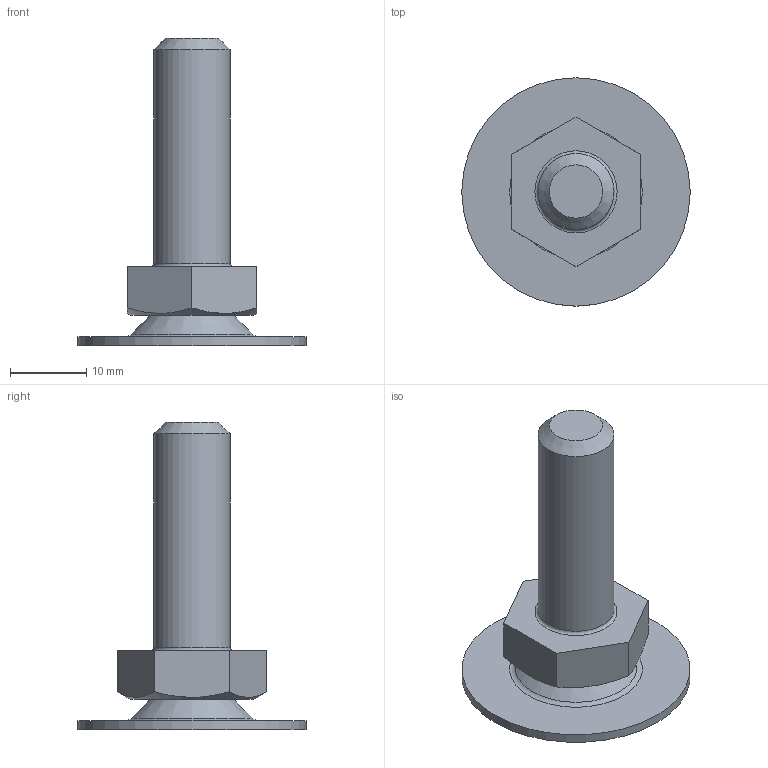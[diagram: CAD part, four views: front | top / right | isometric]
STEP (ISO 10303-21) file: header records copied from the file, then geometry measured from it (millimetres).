
FILE_DESCRIPTION(('STEP AP203'), '1');
FILE_NAME('A00050.1031016', '', ('UNSPECIFIED'), ('UNSPECIFIED'), 'C3D Converter', 'C3D Toolkit', '');
FILE_SCHEMA(('CONFIG_CONTROL_DESIGN'));
Length unit declared in the file: millimetre
Products named in the file (4): A00050.1031030; A00050.1030
Assembly tree (3 placements, depth 2):
  A00050.1031030
    A00050.1030
    (unnamed)
    (unnamed)
Bounding box: 30 x 30 x 40.38 mm (x, y, z)
Volume: 4812.4 mm3; surface area: 3812.7 mm2
Topology: 3 solids, 3 shells, 58 faces, 130 edges, 82 vertices
Faces by surface type: plane 28, torus 8, bspline 8, cone 7, cylinder 6, sphere 1
Full cylindrical faces by diameter (mm): 3.3 x1, 4 x1, 4.5 x1, 8 x1, 10 x1, 30 x1
Entity records: 2171 total; most frequent: CARTESIAN_POINT 784, DIRECTION 242, ORIENTED_EDGE 214, EDGE_CURVE 107, AXIS2_PLACEMENT_3D 95, EDGE_LOOP 86, VERTEX_POINT 81, ADVANCED_FACE 58
